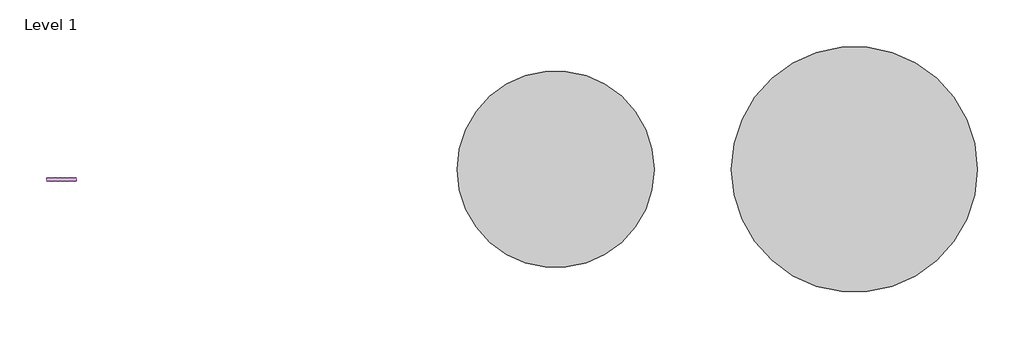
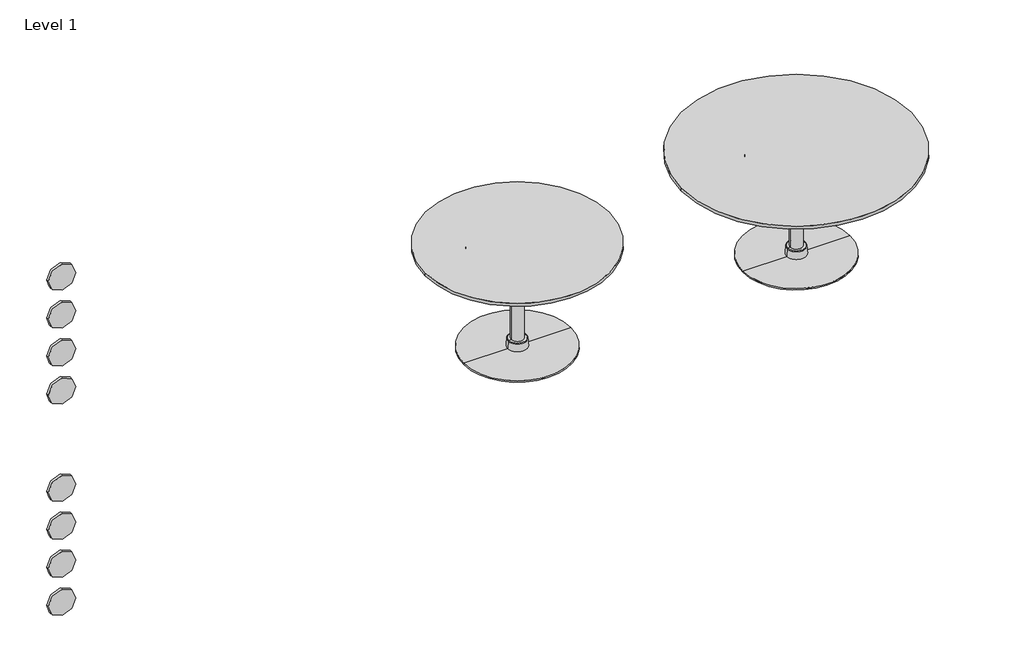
# One storey: 8 proxies, 2 furniture elements.
"""IFC4 building model written with IfcOpenShell, lengths in millimetres."""

import ifcopenshell
import ifcopenshell.guid

model = None  # the IFC model being written
_history = None  # IfcOwnerHistory: only IFC2X3 demands one
_inside = {}  # id of a spatial element -> (the spatial element, [elements in it])
_under = {}  # id of a project, library or spatial element -> (it, [spatial elements below it])
_declared = {}  # id of a project -> (the project, [libraries it declares])
_typed = {}  # id of a type object -> (the type object, [elements of that type])
_made_of = {}  # id of a material, layer set ... -> (it, [elements and type objects made of it])


def new_model(schema):
    """Start an empty IFC model of exactly this schema.

    Asked for "IFC4X3", IfcOpenShell would pick the latest addendum, in which some entities
    have other attributes; the version numbers below select the first issue.
    IFC2X3 requires an IfcOwnerHistory on every rooted entity: one is made here for all.
    """
    global model, _history
    if schema == "IFC4X3":
        model = ifcopenshell.file(schema_version=(4, 3, 0, 0))
    else:
        model = ifcopenshell.file(schema=schema)
    _inside.clear()
    _under.clear()
    _declared.clear()
    _typed.clear()
    _made_of.clear()
    _history = None
    if model.schema == "IFC2X3":
        org = make("IfcOrganization", Name="unknown")
        user = make(
            "IfcPersonAndOrganization",
            ThePerson=make("IfcPerson", FamilyName="unknown"),
            TheOrganization=org,
        )
        app = make(
            "IfcApplication",
            ApplicationDeveloper=org,
            Version="unknown",
            ApplicationFullName="unknown",
            ApplicationIdentifier="unknown",
        )
        _history = make(
            "IfcOwnerHistory",
            OwningUser=user,
            OwningApplication=app,
            ChangeAction="ADDED",
            CreationDate=0,
        )
    return model


def make(cls, **values):
    """One entity of the class cls with the attributes given. An attribute that is None is left unset."""
    return model.create_entity(
        cls, **{name: value for name, value in values.items() if value is not None}
    )


def rooted(cls, **values):
    """An entity with a GlobalId (a new one), such as an element, a storey or a relation."""
    return make(cls, GlobalId=ifcopenshell.guid.new(), OwnerHistory=_history, **values)


def si_unit(unit_type, name, prefix=None):
    """IfcSIUnit, for example si_unit("LENGTHUNIT", "METRE", prefix="MILLI")."""
    return make("IfcSIUnit", UnitType=unit_type, Prefix=prefix, Name=name)


def assignment(units):
    """IfcUnitAssignment: the units of a project."""
    return None if units is None else make("IfcUnitAssignment", Units=units)


def point(xyz):
    """IfcCartesianPoint."""
    return None if xyz is None else make("IfcCartesianPoint", Coordinates=xyz)


def direction(xyz):
    """IfcDirection."""
    return None if xyz is None else make("IfcDirection", DirectionRatios=xyz)


def frame(location, z_axis=None, x_axis=None):
    """IfcAxis2Placement3D, a coordinate frame: its origin and axes. An axis left out is left unset."""
    return make(
        "IfcAxis2Placement3D",
        Location=point(location),
        Axis=direction(z_axis),
        RefDirection=direction(x_axis),
    )


def frame_2d(location, x_axis=None):
    """IfcAxis2Placement2D, a coordinate frame in the plane: its origin and x axis."""
    return make(
        "IfcAxis2Placement2D", Location=point(location), RefDirection=direction(x_axis)
    )


def origin():
    """The frame at (0, 0, 0) with its axes left unset."""
    return frame((0.0, 0.0, 0.0))


def origin_2d():
    """The frame at (0, 0) in the plane with its x axis left unset."""
    return frame_2d((0.0, 0.0))


def place(relative_to, where):
    """IfcLocalPlacement: puts the frame where relative to a parent placement (None: the world)."""
    return make(
        "IfcLocalPlacement", PlacementRelTo=relative_to, RelativePlacement=where
    )


def context(
    kind, dimensions, precision=None, world=None, true_north=None, identifier=None
):
    """IfcGeometricRepresentationContext, for example the 3D "Model" context."""
    return make(
        "IfcGeometricRepresentationContext",
        ContextIdentifier=identifier,
        ContextType=kind,
        CoordinateSpaceDimension=dimensions,
        Precision=precision,
        WorldCoordinateSystem=world,
        TrueNorth=true_north,
    )


def project(units=None, contexts=None):
    """IfcProject with its units and contexts."""
    return rooted(
        "IfcProject",
        Name="project",
        RepresentationContexts=contexts,
        UnitsInContext=assignment(units),
    )


def spatial(cls, under=None, at=None, **own):
    """A site, building, storey or space (cls), placed at a placement, below another one or the project."""
    s = rooted(cls, ObjectPlacement=at, **own)
    if under is not None:
        _under.setdefault(under.id(), (under, []))[1].append(s)
    return s


def polyline(points):
    """IfcPolyline through the points."""
    return make("IfcPolyline", Points=[point(p) for p in points])


def circle_curve(where, radius):
    """IfcCircle in the frame where."""
    return make("IfcCircle", Position=where, Radius=radius)


def ellipse_curve(where, semi_axis1, semi_axis2):
    """IfcEllipse in the frame where."""
    return make(
        "IfcEllipse", Position=where, SemiAxis1=semi_axis1, SemiAxis2=semi_axis2
    )


def trimmed(basis, trim1, trim2, sense, master):
    """IfcTrimmedCurve: the piece of a basis curve between two trims."""
    return make(
        "IfcTrimmedCurve",
        BasisCurve=basis,
        Trim1=trim1,
        Trim2=trim2,
        SenseAgreement=sense,
        MasterRepresentation=master,
    )


def segment(curve, same_sense, transition):
    """IfcCompositeCurveSegment."""
    return make(
        "IfcCompositeCurveSegment",
        Transition=transition,
        SameSense=same_sense,
        ParentCurve=curve,
    )


def composite_curve(segments, self_intersect=None):
    """IfcCompositeCurve: segments joined end to end."""
    return make("IfcCompositeCurve", Segments=segments, SelfIntersect=self_intersect)


def outline(outer, holes=None, kind="AREA"):
    """IfcArbitraryClosedProfileDef: a profile drawn as a closed curve; with holes, ...WithVoids."""
    if holes is None:
        return make("IfcArbitraryClosedProfileDef", ProfileType=kind, OuterCurve=outer)
    return make(
        "IfcArbitraryProfileDefWithVoids",
        ProfileType=kind,
        OuterCurve=outer,
        InnerCurves=holes,
    )


def extrude(swept, where, along, depth):
    """IfcExtrudedAreaSolid: the profile swept, set in the frame where, extruded along a direction by depth."""
    return make(
        "IfcExtrudedAreaSolid",
        SweptArea=swept,
        Position=where,
        ExtrudedDirection=direction(along),
        Depth=depth,
    )


def shape(context_of_items, identifier, shape_type, items):
    """IfcShapeRepresentation: the items that make up one representation, for example the "Body"."""
    return make(
        "IfcShapeRepresentation",
        ContextOfItems=context_of_items,
        RepresentationIdentifier=identifier,
        RepresentationType=shape_type,
        Items=items,
    )


def source(mapping_origin, context_of_items, identifier, shape_type, items):
    """IfcRepresentationMap: a shape defined once, which mapped items show again and again."""
    return make(
        "IfcRepresentationMap",
        MappingOrigin=mapping_origin,
        MappedRepresentation=shape(context_of_items, identifier, shape_type, items),
    )


def transform(
    local_origin,
    x_axis=None,
    y_axis=None,
    z_axis=None,
    scale=None,
    scale2=None,
    scale3=None,
    uniform=True,
):
    """IfcCartesianTransformationOperator3D, or its non-uniform kind. x_axis, y_axis, z_axis: its Axis1, 2, 3."""
    if uniform:
        return make(
            "IfcCartesianTransformationOperator3D",
            Axis1=direction(x_axis),
            Axis2=direction(y_axis),
            LocalOrigin=point(local_origin),
            Scale=scale,
            Axis3=direction(z_axis),
        )
    return make(
        "IfcCartesianTransformationOperator3DnonUniform",
        Axis1=direction(x_axis),
        Axis2=direction(y_axis),
        LocalOrigin=point(local_origin),
        Scale=scale,
        Axis3=direction(z_axis),
        Scale2=scale2,
        Scale3=scale3,
    )


def mapped(mapping_source, mapping_target):
    """IfcMappedItem: shows the shape of a source again, moved by a transform."""
    return make(
        "IfcMappedItem", MappingSource=mapping_source, MappingTarget=mapping_target
    )


def made_of(thing, what):
    """Note that an element or type object is made of a material, layer set ...; save() writes the relation."""
    if what is not None:
        _made_of.setdefault(what.id(), (what, []))[1].append(thing)
    return thing


def element(
    cls,
    number,
    at=None,
    inside=None,
    cuts=None,
    type_object=None,
    material=None,
    context=None,
    identifier="Body",
    shape_type=None,
    held_by="IfcProductDefinitionShape",
    body=None,
    shapes=None,
    **own,
):
    """One element of the class cls, such as IfcWall. Its Tag is "e" and its number.

    at: its placement. inside: the storey or other place that contains it. cuts: it is an
    opening in that element (IfcRelVoidsElement). A single representation is given by context,
    identifier, shape_type and body (its items); several are given by shapes. held_by: the class
    of the entity that holds the representations. save() writes the other relations.
    """
    e = rooted(cls, Tag="e%d" % number, ObjectPlacement=at, **own)
    if body is not None:
        shapes = [shape(context, identifier, shape_type, body)]
    if shapes is not None:
        e.Representation = make(held_by, Representations=shapes)
    if inside is not None:
        _inside.setdefault(inside.id(), (inside, []))[1].append(e)
    if cuts is not None:
        rooted(
            "IfcRelVoidsElement", RelatingBuildingElement=cuts, RelatedOpeningElement=e
        )
    if type_object is not None:
        _typed.setdefault(type_object.id(), (type_object, []))[1].append(e)
    return made_of(e, material)


def aggregate(whole, parts):
    """IfcRelAggregates: a whole, such as a stair, and the parts it consists of."""
    return rooted("IfcRelAggregates", RelatingObject=whole, RelatedObjects=parts)


def save(model, path):
    """Write the relations noted so far, then the file.

    IfcRelAggregates (storeys below a building ...), IfcRelContainedInSpatialStructure (elements
    in a storey), IfcRelDefinesByType, IfcRelAssociatesMaterial and IfcRelDeclares: one each for
    every whole, place, type object, material and project.
    """
    for whole, parts in _under.values():
        aggregate(whole, parts)
    for where, things in _inside.values():
        rooted(
            "IfcRelContainedInSpatialStructure",
            RelatedElements=things,
            RelatingStructure=where,
        )
    for kind, things in _typed.values():
        rooted("IfcRelDefinesByType", RelatedObjects=things, RelatingType=kind)
    for what, things in _made_of.values():
        rooted("IfcRelAssociatesMaterial", RelatedObjects=things, RelatingMaterial=what)
    for by, libraries in _declared.values():
        rooted("IfcRelDeclares", RelatingContext=by, RelatedDefinitions=libraries)
    model.write(path)


def plane_surface(at):
    """IfcPlane: the flat surface through the origin of the frame at, square to its z axis."""
    return make("IfcPlane", Position=at)


def cylinder_surface(at, radius):
    """IfcCylindricalSurface: all points at the distance radius from the z axis of the frame at."""
    return make("IfcCylindricalSurface", Position=at, Radius=radius)


def revolved_surface(curve, axis_point, axis_direction):
    """IfcSurfaceOfRevolution: the curve turned about the line through axis_point along axis_direction."""
    return make(
        "IfcSurfaceOfRevolution",
        SweptCurve=make("IfcArbitraryOpenProfileDef", ProfileType="CURVE", Curve=curve),
        AxisPosition=make("IfcAxis1Placement", Location=point(axis_point), Axis=direction(axis_direction)),
    )


def advanced_brep(points, edges, surfaces, faces):
    """IfcAdvancedBrep: a solid bounded by faces that lie on surfaces and meet in shared edges.

    An edge is (start, end): straight between two places in points (the first is 0);
    or (start, end, curve); or (start, end, curve, False) where it runs against its curve.
    A face is (place in surfaces, loops), or (place, loops, False) where it looks against
    its surface's normal. A loop lists edges by number (the first is 1), with a minus sign
    where the edge is run from its end to its start. The first loop is the outer one.
    """
    corners = [point(p) for p in points]
    vertices = [make("IfcVertexPoint", VertexGeometry=c) for c in corners]
    made = []
    for start, end, *more in edges:
        made.append(
            make(
                "IfcEdgeCurve",
                EdgeStart=vertices[start],
                EdgeEnd=vertices[end],
                EdgeGeometry=more[0] if more else make("IfcPolyline", Points=[corners[start], corners[end]]),
                SameSense=more[1] if len(more) > 1 else True,
            )
        )
    hull = []
    for where, loops, *sense in faces:
        bounds = []
        for j, loop in enumerate(loops):
            ring = [make("IfcOrientedEdge", EdgeElement=made[abs(k) - 1], Orientation=k > 0) for k in loop]
            bounds.append(
                make(
                    "IfcFaceOuterBound" if j == 0 else "IfcFaceBound",
                    Bound=make("IfcEdgeLoop", EdgeList=ring),
                    Orientation=True,
                )
            )
        hull.append(make("IfcAdvancedFace", Bounds=bounds, FaceSurface=surfaces[where], SameSense=sense[0] if sense else True))
    return make("IfcAdvancedBrep", Outer=make("IfcClosedShell", CfsFaces=hull))


def materialmodel_materialmodel_77b1ec5b(model_context):
    return source(origin(), model_context, "Body", "SweptSolid", [
        extrude(outline(composite_curve([segment(trimmed(circle_curve(frame_2d((10.0, 0.0)), 90.0), [point((10.0, -90.0))], [point((10.0, 90.0))], False, "CARTESIAN"), True, "CONTINUOUS"), segment(trimmed(circle_curve(frame_2d((10.0, 0.0)), 90.0), [point((10.0, 90.0))], [point((10.0, -90.0))], False, "CARTESIAN"), True, "CONTINUOUS")], self_intersect=False)), frame((0.0, -10.0, 0.0), z_axis=(0.0, 1.0, 0.0), x_axis=(0.0, 0.0, 1.0)), (0.0, 0.0, 1.0), 20.0),
    ])


def furniture_fb537beb(model_context):
    return source(origin(), model_context, "Body", "SolidModel", [
        advanced_brep(
        [(0.0, 0.0, 0.0), (-350.0, 0.0, 0.0), (350.0, 0.0, 0.0), (295.0, 0.0, 700.0), (-295.0, 0.0, 700.0), (0.0, 0.0, 700.0), (295.0, 0.0, 695.0), (-295.0, 0.0, 695.0), (40.0, 0.0, 695.0), (-40.0, 0.0, 695.0), (40.0, 0.0, 65.0), (-40.0, 0.0, 65.0), (57.1367795, 0.0, 65.0), (-57.1367795, 0.0, 65.0), (60.1294716, 0.0, 62.2092694), (-60.1294716, 0.0, 62.2092694), (63.7802994, 0.0, 10.0), (-63.7802994, 0.0, 10.0), (350.0, 0.0, 10.0), (-350.0, 0.0, 10.0)],
        [
            (0, 1),
            (1, 2, circle_curve(frame((0.0, 0.0, 0.0), z_axis=(0.0, 0.0, -1.0), x_axis=(-1.0, 0.0, 0.0)), 350.0)),
            (2, 0),
            (2, 1, circle_curve(frame((0.0, 0.0, 0.0), z_axis=(0.0, 0.0, -1.0), x_axis=(-1.0, 0.0, 0.0)), 350.0)),
            (3, 4, circle_curve(frame((0.0, 0.0, 700.0), z_axis=(0.0, 0.0, 1.0), x_axis=(-1.0, 0.0, 0.0)), 295.0)),
            (4, 5),
            (5, 3),
            (4, 3, circle_curve(frame((0.0, 0.0, 700.0), z_axis=(0.0, 0.0, 1.0), x_axis=(-1.0, 0.0, 0.0)), 295.0)),
            (6, 7, circle_curve(frame((0.0, 0.0, 695.0), z_axis=(0.0, 0.0, 1.0), x_axis=(-1.0, 0.0, 0.0)), 295.0)),
            (7, 4),
            (3, 6),
            (7, 6, circle_curve(frame((0.0, 0.0, 695.0), z_axis=(0.0, 0.0, 1.0), x_axis=(-1.0, 0.0, 0.0)), 295.0)),
            (8, 9, circle_curve(frame((0.0, 0.0, 695.0), z_axis=(0.0, 0.0, 1.0), x_axis=(-1.0, 0.0, 0.0)), 40.0)),
            (9, 7),
            (6, 8),
            (9, 8, circle_curve(frame((0.0, 0.0, 695.0), z_axis=(0.0, 0.0, 1.0), x_axis=(-1.0, 0.0, 0.0)), 40.0)),
            (10, 11, circle_curve(frame((0.0, 0.0, 65.0), z_axis=(0.0, 0.0, 1.0), x_axis=(-1.0, 0.0, 0.0)), 40.0)),
            (11, 9),
            (8, 10),
            (11, 10, circle_curve(frame((0.0, 0.0, 65.0), z_axis=(0.0, 0.0, 1.0), x_axis=(-1.0, 0.0, 0.0)), 40.0)),
            (12, 13, circle_curve(frame((0.0, 0.0, 65.0), z_axis=(0.0, 0.0, 1.0), x_axis=(-1.0, 0.0, 0.0)), 57.1367795)),
            (13, 11),
            (10, 12),
            (13, 12, circle_curve(frame((0.0, 0.0, 65.0), z_axis=(0.0, 0.0, 1.0), x_axis=(-1.0, 0.0, 0.0)), 57.1367795)),
            (14, 15, circle_curve(frame((0.0, 0.0, 62.2092694), z_axis=(0.0, 0.0, 1.0), x_axis=(-1.0, 0.0, 0.0)), 60.1294716)),
            (15, 13, circle_curve(frame((-57.1367795, 0.0, 62.0), z_axis=(0.0, 1.0, 0.0), x_axis=(1.0, 0.0, 0.0)), 3.0)),
            (12, 14, circle_curve(frame((57.1367795, 0.0, 62.0), z_axis=(0.0, 1.0, 0.0), x_axis=(-1.0, 0.0, 0.0)), 3.0)),
            (15, 14, circle_curve(frame((0.0, 0.0, 62.2092694), z_axis=(0.0, 0.0, 1.0), x_axis=(-1.0, 0.0, 0.0)), 60.1294716)),
            (16, 17, circle_curve(frame((0.0, 0.0, 10.0), z_axis=(0.0, 0.0, 1.0), x_axis=(-1.0, 0.0, 0.0)), 63.7802994)),
            (17, 15),
            (14, 16),
            (17, 16, circle_curve(frame((0.0, 0.0, 10.0), z_axis=(0.0, 0.0, 1.0), x_axis=(-1.0, 0.0, 0.0)), 63.7802994)),
            (18, 19, circle_curve(frame((0.0, 0.0, 10.0), z_axis=(0.0, 0.0, 1.0), x_axis=(-1.0, 0.0, 0.0)), 350.0)),
            (19, 17),
            (16, 18),
            (19, 18, circle_curve(frame((0.0, 0.0, 10.0), z_axis=(0.0, 0.0, 1.0), x_axis=(-1.0, 0.0, 0.0)), 350.0)),
            (1, 19),
            (18, 2),
        ],
        [
            plane_surface(frame((0.0, 0.0, 0.0), z_axis=(0.0, 0.0, -1.0), x_axis=(-1.0, 0.0, 0.0))),
            plane_surface(frame((0.0, 0.0, 700.0), z_axis=(0.0, 0.0, 1.0), x_axis=(-1.0, 0.0, 0.0))),
            cylinder_surface(frame((0.0, 0.0, 780.0), z_axis=(0.0, 0.0, -1.0), x_axis=(-1.0, 0.0, 0.0)), 295.0),
            plane_surface(frame((0.0, 0.0, 695.0), z_axis=(0.0, 0.0, -1.0), x_axis=(-1.0, 0.0, 0.0))),
            cylinder_surface(frame((0.0, 0.0, 780.0), z_axis=(0.0, 0.0, -1.0), x_axis=(-1.0, 0.0, 0.0)), 40.0),
            plane_surface(frame((0.0, 0.0, 65.0), z_axis=(0.0, 0.0, 1.0), x_axis=(-1.0, 0.0, 0.0))),
            revolved_surface(trimmed(ellipse_curve(frame((-57.1367795, 0.0, 62.0), z_axis=(0.0, -1.0, 0.0), x_axis=(1.0, 0.0, 0.0)), 3.0, 3.0), [point((-57.1367795, 0.0, 65.0))], [point((-60.1294716, 0.0, 62.2092694))], True, "CARTESIAN"), (0.0, 0.0, 780.0), (0.0, 0.0, -1.0)),
            revolved_surface(polyline([(-60.1294716, 0.0, 62.2092694), (-63.7802994, 0.0, 10.0)]), (0.0, 0.0, 780.0), (0.0, 0.0, -1.0)),
            plane_surface(frame((0.0, 0.0, 10.0), z_axis=(0.0, 0.0, 1.0), x_axis=(-1.0, 0.0, 0.0))),
            cylinder_surface(frame((0.0, 0.0, 780.0), z_axis=(0.0, 0.0, -1.0), x_axis=(-1.0, 0.0, 0.0)), 350.0),
        ],
        [
            (0, [[1, 2, 3]]),
            (0, [[-3, 4, -1]]),
            (1, [[5, 6, 7]]),
            (1, [[8, -7, -6]]),
            (2, [[9, 10, -5, 11]]),
            (2, [[12, -11, -8, -10]]),
            (3, [[13, 14, -9, 15]]),
            (3, [[16, -15, -12, -14]]),
            (4, [[17, 18, -13, 19]]),
            (4, [[20, -19, -16, -18]]),
            (5, [[21, 22, -17, 23]]),
            (5, [[24, -23, -20, -22]]),
            (6, [[25, 26, -21, 27]]),
            (6, [[28, -27, -24, -26]]),
            (7, [[29, 30, -25, 31]]),
            (7, [[32, -31, -28, -30]]),
            (8, [[33, 34, -29, 35]]),
            (8, [[36, -35, -32, -34]]),
            (9, [[-2, 37, -33, 38]]),
            (9, [[-4, -38, -36, -37]]),
        ],
    ),
        extrude(outline(composite_curve([segment(trimmed(circle_curve(origin_2d(), 750.0), [point((-750.0, 0.0))], [point((750.0, 0.0))], False, "CARTESIAN"), True, "CONTINUOUS"), segment(trimmed(circle_curve(origin_2d(), 750.0), [point((750.0, 0.0))], [point((-750.0, 0.0))], False, "CARTESIAN"), True, "CONTINUOUS")], self_intersect=False)), frame((0.0, 0.0, 700.0), z_axis=(0.0, 0.0, 1.0), x_axis=(1.0, 0.0, 0.0)), (0.0, 0.0, 1.0), 20.0),
    ])


def furniture_d20f64bd(model_context):
    return source(origin(), model_context, "Body", "SolidModel", [
        advanced_brep(
        [(0.0, 0.0, 0.0), (-350.0, 0.0, 0.0), (350.0, 0.0, 0.0), (295.0, 0.0, 700.0), (-295.0, 0.0, 700.0), (0.0, 0.0, 700.0), (295.0, 0.0, 695.0), (-295.0, 0.0, 695.0), (40.0, 0.0, 695.0), (-40.0, 0.0, 695.0), (40.0, 0.0, 65.0), (-40.0, 0.0, 65.0), (57.1367795, 0.0, 65.0), (-57.1367795, 0.0, 65.0), (60.1294716, 0.0, 62.2092694), (-60.1294716, 0.0, 62.2092694), (63.7802994, 0.0, 10.0), (-63.7802994, 0.0, 10.0), (350.0, 0.0, 10.0), (-350.0, 0.0, 10.0)],
        [
            (0, 1),
            (1, 2, circle_curve(frame((0.0, 0.0, 0.0), z_axis=(0.0, 0.0, -1.0), x_axis=(-1.0, 0.0, 0.0)), 350.0)),
            (2, 0),
            (2, 1, circle_curve(frame((0.0, 0.0, 0.0), z_axis=(0.0, 0.0, -1.0), x_axis=(-1.0, 0.0, 0.0)), 350.0)),
            (3, 4, circle_curve(frame((0.0, 0.0, 700.0), z_axis=(0.0, 0.0, 1.0), x_axis=(-1.0, 0.0, 0.0)), 295.0)),
            (4, 5),
            (5, 3),
            (4, 3, circle_curve(frame((0.0, 0.0, 700.0), z_axis=(0.0, 0.0, 1.0), x_axis=(-1.0, 0.0, 0.0)), 295.0)),
            (6, 7, circle_curve(frame((0.0, 0.0, 695.0), z_axis=(0.0, 0.0, 1.0), x_axis=(-1.0, 0.0, 0.0)), 295.0)),
            (7, 4),
            (3, 6),
            (7, 6, circle_curve(frame((0.0, 0.0, 695.0), z_axis=(0.0, 0.0, 1.0), x_axis=(-1.0, 0.0, 0.0)), 295.0)),
            (8, 9, circle_curve(frame((0.0, 0.0, 695.0), z_axis=(0.0, 0.0, 1.0), x_axis=(-1.0, 0.0, 0.0)), 40.0)),
            (9, 7),
            (6, 8),
            (9, 8, circle_curve(frame((0.0, 0.0, 695.0), z_axis=(0.0, 0.0, 1.0), x_axis=(-1.0, 0.0, 0.0)), 40.0)),
            (10, 11, circle_curve(frame((0.0, 0.0, 65.0), z_axis=(0.0, 0.0, 1.0), x_axis=(-1.0, 0.0, 0.0)), 40.0)),
            (11, 9),
            (8, 10),
            (11, 10, circle_curve(frame((0.0, 0.0, 65.0), z_axis=(0.0, 0.0, 1.0), x_axis=(-1.0, 0.0, 0.0)), 40.0)),
            (12, 13, circle_curve(frame((0.0, 0.0, 65.0), z_axis=(0.0, 0.0, 1.0), x_axis=(-1.0, 0.0, 0.0)), 57.1367795)),
            (13, 11),
            (10, 12),
            (13, 12, circle_curve(frame((0.0, 0.0, 65.0), z_axis=(0.0, 0.0, 1.0), x_axis=(-1.0, 0.0, 0.0)), 57.1367795)),
            (14, 15, circle_curve(frame((0.0, 0.0, 62.2092694), z_axis=(0.0, 0.0, 1.0), x_axis=(-1.0, 0.0, 0.0)), 60.1294716)),
            (15, 13, circle_curve(frame((-57.1367795, 0.0, 62.0), z_axis=(0.0, 1.0, 0.0), x_axis=(1.0, 0.0, 0.0)), 3.0)),
            (12, 14, circle_curve(frame((57.1367795, 0.0, 62.0), z_axis=(0.0, 1.0, 0.0), x_axis=(-1.0, 0.0, 0.0)), 3.0)),
            (15, 14, circle_curve(frame((0.0, 0.0, 62.2092694), z_axis=(0.0, 0.0, 1.0), x_axis=(-1.0, 0.0, 0.0)), 60.1294716)),
            (16, 17, circle_curve(frame((0.0, 0.0, 10.0), z_axis=(0.0, 0.0, 1.0), x_axis=(-1.0, 0.0, 0.0)), 63.7802994)),
            (17, 15),
            (14, 16),
            (17, 16, circle_curve(frame((0.0, 0.0, 10.0), z_axis=(0.0, 0.0, 1.0), x_axis=(-1.0, 0.0, 0.0)), 63.7802994)),
            (18, 19, circle_curve(frame((0.0, 0.0, 10.0), z_axis=(0.0, 0.0, 1.0), x_axis=(-1.0, 0.0, 0.0)), 350.0)),
            (19, 17),
            (16, 18),
            (19, 18, circle_curve(frame((0.0, 0.0, 10.0), z_axis=(0.0, 0.0, 1.0), x_axis=(-1.0, 0.0, 0.0)), 350.0)),
            (1, 19),
            (18, 2),
        ],
        [
            plane_surface(frame((0.0, 0.0, 0.0), z_axis=(0.0, 0.0, -1.0), x_axis=(-1.0, 0.0, 0.0))),
            plane_surface(frame((0.0, 0.0, 700.0), z_axis=(0.0, 0.0, 1.0), x_axis=(-1.0, 0.0, 0.0))),
            cylinder_surface(frame((0.0, 0.0, 780.0), z_axis=(0.0, 0.0, -1.0), x_axis=(-1.0, 0.0, 0.0)), 295.0),
            plane_surface(frame((0.0, 0.0, 695.0), z_axis=(0.0, 0.0, -1.0), x_axis=(-1.0, 0.0, 0.0))),
            cylinder_surface(frame((0.0, 0.0, 780.0), z_axis=(0.0, 0.0, -1.0), x_axis=(-1.0, 0.0, 0.0)), 40.0),
            plane_surface(frame((0.0, 0.0, 65.0), z_axis=(0.0, 0.0, 1.0), x_axis=(-1.0, 0.0, 0.0))),
            revolved_surface(trimmed(ellipse_curve(frame((-57.1367795, 0.0, 62.0), z_axis=(0.0, -1.0, 0.0), x_axis=(1.0, 0.0, 0.0)), 3.0, 3.0), [point((-57.1367795, 0.0, 65.0))], [point((-60.1294716, 0.0, 62.2092694))], True, "CARTESIAN"), (0.0, 0.0, 780.0), (0.0, 0.0, -1.0)),
            revolved_surface(polyline([(-60.1294716, 0.0, 62.2092694), (-63.7802994, 0.0, 10.0)]), (0.0, 0.0, 780.0), (0.0, 0.0, -1.0)),
            plane_surface(frame((0.0, 0.0, 10.0), z_axis=(0.0, 0.0, 1.0), x_axis=(-1.0, 0.0, 0.0))),
            cylinder_surface(frame((0.0, 0.0, 780.0), z_axis=(0.0, 0.0, -1.0), x_axis=(-1.0, 0.0, 0.0)), 350.0),
        ],
        [
            (0, [[1, 2, 3]]),
            (0, [[-3, 4, -1]]),
            (1, [[5, 6, 7]]),
            (1, [[8, -7, -6]]),
            (2, [[9, 10, -5, 11]]),
            (2, [[12, -11, -8, -10]]),
            (3, [[13, 14, -9, 15]]),
            (3, [[16, -15, -12, -14]]),
            (4, [[17, 18, -13, 19]]),
            (4, [[20, -19, -16, -18]]),
            (5, [[21, 22, -17, 23]]),
            (5, [[24, -23, -20, -22]]),
            (6, [[25, 26, -21, 27]]),
            (6, [[28, -27, -24, -26]]),
            (7, [[29, 30, -25, 31]]),
            (7, [[32, -31, -28, -30]]),
            (8, [[33, 34, -29, 35]]),
            (8, [[36, -35, -32, -34]]),
            (9, [[-2, 37, -33, 38]]),
            (9, [[-4, -38, -36, -37]]),
        ],
    ),
        extrude(outline(composite_curve([segment(trimmed(circle_curve(origin_2d(), 600.0), [point((-600.0, 0.0))], [point((600.0, 0.0))], False, "CARTESIAN"), True, "CONTINUOUS"), segment(trimmed(circle_curve(origin_2d(), 600.0), [point((600.0, 0.0))], [point((-600.0, 0.0))], False, "CARTESIAN"), True, "CONTINUOUS")], self_intersect=False)), frame((0.0, 0.0, 700.0), z_axis=(0.0, 0.0, 1.0), x_axis=(1.0, 0.0, 0.0)), (0.0, 0.0, 1.0), 20.0),
    ])


model = new_model("IFC4")

# Units and contexts
model_context = context("Model", 3, world=origin())
ifc_project = project(units=[si_unit("LENGTHUNIT", "METRE", prefix="MILLI")], contexts=[model_context])

# Site, building, storey
site = spatial("IfcSite", under=ifc_project)
building = spatial("IfcBuilding", under=site)
storey = spatial("IfcBuildingStorey", under=building, Name="Level 1", Elevation=0.0)

# Proxies
placement = place(None, origin())
materialmodel_materialmodel_shape = materialmodel_materialmodel_77b1ec5b(model_context)
element("IfcBuildingElementProxy", 1, Name="MaterialModel : MaterialModel", ObjectType="MaterialModel : MaterialModel", at=placement, inside=storey, context=model_context, shape_type="MappedRepresentation", body=[
    mapped(materialmodel_materialmodel_shape, transform((-13812.0748245, 6397.5703847, 1570.2825651), x_axis=(1.0, 0.0, 0.0), y_axis=(0.0, 1.0, 0.0), z_axis=(0.0, 0.0, 1.0))),
])
element("IfcBuildingElementProxy", 2, Name="MaterialModel : MaterialModel", ObjectType="MaterialModel : MaterialModel", at=placement, inside=storey, context=model_context, shape_type="MappedRepresentation", body=[
    mapped(materialmodel_materialmodel_shape, transform((-13812.0748245, 6397.5703847, 1307.7825651), x_axis=(1.0, 0.0, 0.0), y_axis=(0.0, 1.0, 0.0), z_axis=(0.0, 0.0, 1.0))),
])
element("IfcBuildingElementProxy", 3, Name="MaterialModel : MaterialModel", ObjectType="MaterialModel : MaterialModel", at=placement, inside=storey, context=model_context, shape_type="MappedRepresentation", body=[
    mapped(materialmodel_materialmodel_shape, transform((-13812.0748245, 6397.5703847, 1045.2825651), x_axis=(1.0, 0.0, 0.0), y_axis=(0.0, 1.0, 0.0), z_axis=(0.0, 0.0, 1.0))),
])
element("IfcBuildingElementProxy", 4, Name="MaterialModel : MaterialModel", ObjectType="MaterialModel : MaterialModel", at=placement, inside=storey, context=model_context, shape_type="MappedRepresentation", body=[
    mapped(materialmodel_materialmodel_shape, transform((-13812.0748245, 6397.5703847, 782.7825651), x_axis=(1.0, 0.0, 0.0), y_axis=(0.0, 1.0, 0.0), z_axis=(0.0, 0.0, 1.0))),
])
element("IfcBuildingElementProxy", 5, Name="MaterialModel : MaterialModel", ObjectType="MaterialModel : MaterialModel", at=placement, inside=storey, context=model_context, shape_type="MappedRepresentation", body=[
    mapped(materialmodel_materialmodel_shape, transform((-13812.0748245, 6397.5703847, 110.2825651), x_axis=(1.0, 0.0, 0.0), y_axis=(0.0, 1.0, 0.0), z_axis=(0.0, 0.0, 1.0))),
])
element("IfcBuildingElementProxy", 6, Name="MaterialModel : MaterialModel", ObjectType="MaterialModel : MaterialModel", at=placement, inside=storey, context=model_context, shape_type="MappedRepresentation", body=[
    mapped(materialmodel_materialmodel_shape, transform((-13812.0748245, 6397.5703847, -152.2174349), x_axis=(1.0, 0.0, 0.0), y_axis=(0.0, 1.0, 0.0), z_axis=(0.0, 0.0, 1.0))),
])
element("IfcBuildingElementProxy", 7, Name="MaterialModel : MaterialModel", ObjectType="MaterialModel : MaterialModel", at=placement, inside=storey, context=model_context, shape_type="MappedRepresentation", body=[
    mapped(materialmodel_materialmodel_shape, transform((-13812.0748245, 6397.5703847, -414.7174349), x_axis=(1.0, 0.0, 0.0), y_axis=(0.0, 1.0, 0.0), z_axis=(0.0, 0.0, 1.0))),
])
element("IfcBuildingElementProxy", 8, Name="MaterialModel : MaterialModel", ObjectType="MaterialModel : MaterialModel", at=placement, inside=storey, context=model_context, shape_type="MappedRepresentation", body=[
    mapped(materialmodel_materialmodel_shape, transform((-13812.0748245, 6397.5703847, -677.2174349), x_axis=(1.0, 0.0, 0.0), y_axis=(0.0, 1.0, 0.0), z_axis=(0.0, 0.0, 1.0))),
])

# Furniture
furniture_shape = furniture_fb537beb(model_context)
element("IfcFurniture", 9, ObjectType="Fredericia - Plan Column Table - Ø150 - H73 - 6625 : Fredericia - Plan Column Table - Ø150 - H73 - 6625", at=placement, inside=storey, context=model_context, shape_type="MappedRepresentation", body=[
    mapped(furniture_shape, transform((-8975.9300361, 6459.3026396, 0.0), x_axis=(1.0, 0.0, 0.0), y_axis=(0.0, 1.0, 0.0), z_axis=(0.0, 0.0, 1.0))),
])
furniture_2_shape = furniture_d20f64bd(model_context)
element("IfcFurniture", 10, ObjectType="Fredericia - Plan Column Table - Ø120 - H73 - 6622 : Fredericia - Plan Column Table - Ø120 - H73 - 6622", at=placement, inside=storey, context=model_context, shape_type="MappedRepresentation", body=[
    mapped(furniture_2_shape, transform((-10797.6842794, 6459.3026396, 0.0), x_axis=(1.0, 0.0, 0.0), y_axis=(0.0, 1.0, 0.0), z_axis=(0.0, 0.0, 1.0))),
])

save(model, "model.ifc")
